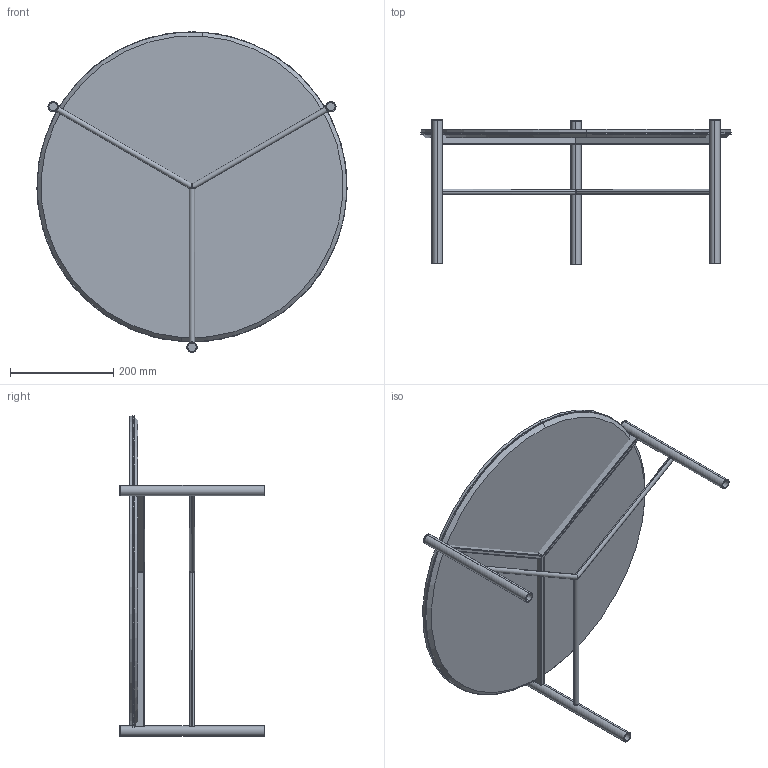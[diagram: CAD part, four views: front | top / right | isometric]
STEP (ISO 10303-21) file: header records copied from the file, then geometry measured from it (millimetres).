
FILE_DESCRIPTION (( 'STEP AP203' ), '1' );
FILE_NAME ('J101C.STEP', '2024-08-06T11:43:03', ( '' ), ( '' ), 'SwSTEP 2.0', 'SolidWorks 2022', '' );
FILE_SCHEMA (( 'CONFIG_CONTROL_DESIGN' ));
Length unit declared in the file: millimetre
Products named in the file (3): JXXXS00000000-00-jack metallo grezzo tutte le misure_J101S00000000-JACK TAVOLINO D.60x26h<A macchina>; K1XCMXX-00-Piani Rotondi in ceramica_D.600; J101C
Assembly tree (2 placements, depth 2):
  J101C
    JXXXS00000000-00-jack metallo grezzo tutte le misure_J101S00000000-JACK TAVOLINO D.60x26h<A macchina>
    K1XCMXX-00-Piani Rotondi in ceramica_D.600
Bounding box: 599.97 x 279 x 620.07 mm (x, y, z)
Volume: 5478912.9 mm3; surface area: 1962182.2 mm2
Topology: 15 solids, 15 shells, 131 faces, 303 edges, 200 vertices
Faces by surface type: cylinder 75, plane 54, cone 2
Entity records: 4654 total; most frequent: CARTESIAN_POINT 1471, ORIENTED_EDGE 606, DIRECTION 569, EDGE_CURVE 303, AXIS2_PLACEMENT_3D 208, VERTEX_POINT 200, LINE 153, VECTOR 153
